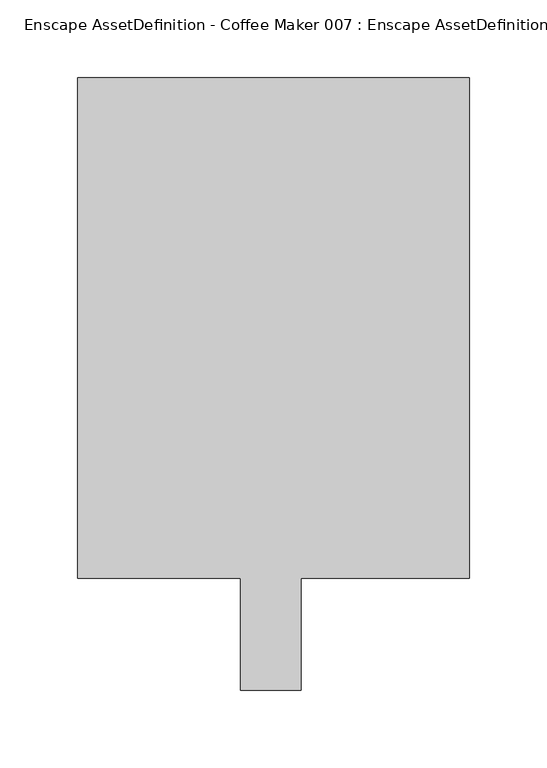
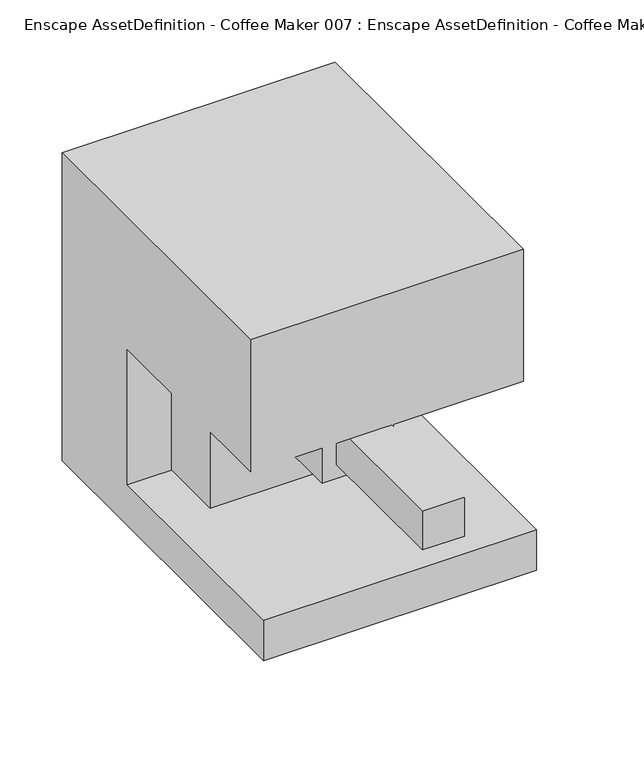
"""IFC4 building model written with IfcOpenShell, lengths in millimetres: geographic element geometry, Enscape AssetDefinition - Coffee Maker 007 : Enscape AssetDefinition - Coffee Maker 007."""

from ifc_helpers import new_model, si_unit, origin, place, context, project, spatial, triangles, source, transform, mapped, element, save


def enscape_assetdefinition_coffee_maker_007_enscape_659ea5d6(model_context):
    return source(origin(), model_context, "Body", "Tessellation", [
        triangles([(83.9761605, -11.2171092, 27.8529669), (-83.9761605, -11.2171092, 27.8529669), (-83.9761605, 58.7960614, 27.8529669), (83.9761605, -11.2171092, 184.4472263), (83.9761605, 58.7960614, 27.8529669), (83.9761605, 58.7960614, 184.4472263), (-83.9761605, 58.7960614, 184.4472263), (-83.9761605, -11.2171092, 184.4472263), (127.7989853, -167.4873785, 0.0), (-124.6850402, -167.4873785, 0.0), (-124.6850311, 50.9256979, 0.0), (-124.6850402, -167.4873785, 39.7982521), (127.7989853, -167.4873785, 39.7982521), (-124.6850311, 50.9256979, 39.7982521), (127.7989853, 50.9256979, 0.0), (-124.6850402, 155.0862278, 0.0), (127.7989853, 155.0862278, 300.9835542), (127.7989853, 50.9256979, 39.7982521), (127.7989853, 155.0862278, 0.0), (-124.6850402, 155.0862278, 300.9835542), (127.7989853, -146.2180645, 171.9891568), (127.7989853, -146.2180645, 300.9835542), (-124.6850311, -146.2180645, 171.9891568), (127.7989853, 50.9256979, 171.9891568), (-124.6850402, -146.2180645, 300.9835542), (-124.6850311, 50.9256979, 171.9891568), (-33.2600429, -29.2328745, 102.2724365), (33.2600588, -29.2328882, 102.2724456), (33.2600474, -102.306873, 102.2724456), (33.2600474, -102.3068458, 172.3998875), (-33.2600474, -29.2328655, 172.3998875), (-33.2600588, -102.3068458, 102.2724456), (-33.2600633, -102.3068367, 172.3998875), (33.2600588, -29.2328791, 172.3998875), (19.4471187, -92.2886346, 115.2371703), (19.4470915, -239.615207, 153.2474228), (-19.4471187, -239.6151888, 153.2474228), (19.447096, -239.615207, 115.2371703), (-19.4471187, -239.6151888, 115.2371703), (-19.4470915, -92.2886164, 115.2371703), (19.4471165, -92.2886346, 153.2474228), (-19.4470915, -92.2886164, 153.2474228)], [[41, 40, 42], [40, 37, 42], [40, 39, 37], [38, 37, 39], [36, 41, 42], [38, 36, 37], [36, 42, 37], [41, 35, 40], [35, 38, 39], [35, 41, 36], [35, 39, 40], [35, 36, 38], [34, 27, 31], [27, 33, 31], [27, 32, 33], [29, 33, 32], [30, 34, 31], [29, 30, 33], [30, 31, 33], [34, 28, 27], [28, 29, 32], [28, 34, 30], [28, 32, 27], [28, 30, 29], [21, 23, 26], [23, 25, 26], [24, 21, 26], [26, 14, 24], [22, 21, 24], [22, 25, 23], [21, 22, 23], [25, 20, 26], [26, 20, 14], [25, 22, 20], [22, 17, 20], [17, 22, 24], [14, 18, 24], [17, 24, 18], [20, 17, 19], [19, 17, 18], [20, 16, 14], [16, 20, 19], [16, 19, 15], [15, 19, 18], [15, 18, 13], [18, 14, 12], [13, 18, 12], [9, 13, 12], [9, 15, 13], [11, 15, 9], [11, 16, 15], [16, 11, 14], [10, 12, 14], [11, 10, 14], [10, 9, 12], [10, 11, 9], [3, 8, 7], [8, 6, 7], [8, 4, 6], [1, 6, 4], [5, 3, 7], [1, 5, 6], [5, 7, 6], [3, 2, 8], [2, 1, 4], [2, 3, 5], [2, 4, 8], [2, 5, 1]]),
    ])


if __name__ == "__main__":
    model = new_model("IFC4")
    model_context = context("Model", 3, world=origin())
    ifc_project = project(units=[si_unit("LENGTHUNIT", "METRE", prefix="MILLI")], contexts=[model_context])
    site = spatial("IfcSite", under=ifc_project)
    building = spatial("IfcBuilding", under=site)
    placement = place(None, origin())
    enscape_assetdefinition_coffee_maker_007_enscape_shape = enscape_assetdefinition_coffee_maker_007_enscape_659ea5d6(model_context)
    element("IfcGeographicElement", 1, ObjectType="Enscape AssetDefinition - Coffee Maker 007 : Enscape AssetDefinition - Coffee Maker 007", at=placement, inside=building, context=model_context, shape_type="MappedRepresentation", body=[
        mapped(enscape_assetdefinition_coffee_maker_007_enscape_shape, transform((0.0, 0.0, 0.0), x_axis=(1.0, 0.0, 0.0), y_axis=(0.0, 1.0, 0.0), z_axis=(0.0, 0.0, 1.0))),
    ])
    save(model, "model.ifc")
